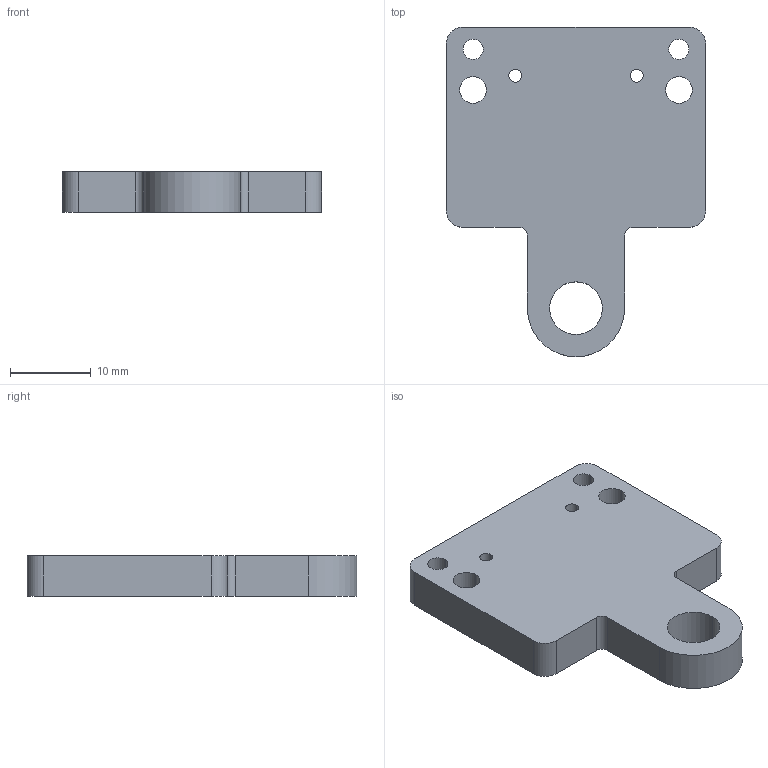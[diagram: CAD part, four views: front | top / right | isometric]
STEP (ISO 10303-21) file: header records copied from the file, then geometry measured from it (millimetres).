
FILE_DESCRIPTION (( 'STEP AP214' ), '1' );
FILE_NAME ('SMBJ2-6.STEP', '2019-11-06T06:53:34', ( '微软用户' ), ( '微软中国' ), 'SwSTEP 2.0', 'SolidWorks 2016', '' );
FILE_SCHEMA (( 'AUTOMOTIVE_DESIGN' ));
Length unit declared in the file: millimetre
Products named in the file (1): SMBJ2-6
Bounding box: 32 x 40.7 x 5 mm (x, y, z)
Volume: 4499.1 mm3; surface area: 2814 mm2
Topology: 1 solids, 1 shells, 30 faces, 84 edges, 56 vertices
Faces by surface type: cylinder 21, plane 9
Entity records: 1052 total; most frequent: DIRECTION 188, CARTESIAN_POINT 171, ORIENTED_EDGE 168, EDGE_CURVE 84, AXIS2_PLACEMENT_3D 73, VERTEX_POINT 56, EDGE_LOOP 44, CIRCLE 42
